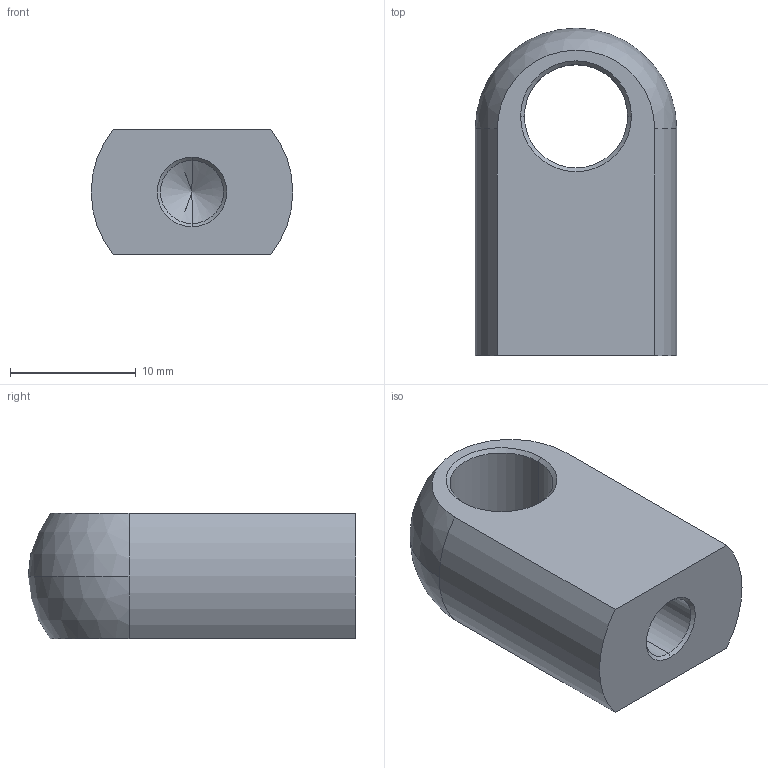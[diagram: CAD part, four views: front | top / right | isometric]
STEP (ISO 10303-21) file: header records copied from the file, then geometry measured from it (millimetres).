
FILE_DESCRIPTION (( 'STEP AP214' ), '1' );
FILE_NAME ('18.06A1L20.STEP', '2017-11-13T10:59:47', ( '' ), ( '' ), 'SwSTEP 2.0', 'SolidWorks 2016', '' );
FILE_SCHEMA (( 'AUTOMOTIVE_DESIGN' ));
Length unit declared in the file: millimetre
Products named in the file (1): 18.06A1L20
Bounding box: 16 x 26 x 10 mm (x, y, z)
Volume: 2797.2 mm3; surface area: 1678.2 mm2
Topology: 1 solids, 1 shells, 19 faces, 44 edges, 26 vertices
Faces by surface type: cone 8, cylinder 6, plane 3, sphere 2
Entity records: 570 total; most frequent: DIRECTION 106, CARTESIAN_POINT 88, ORIENTED_EDGE 84, AXIS2_PLACEMENT_3D 44, EDGE_CURVE 42, VERTEX_POINT 26, CIRCLE 24, EDGE_LOOP 22
